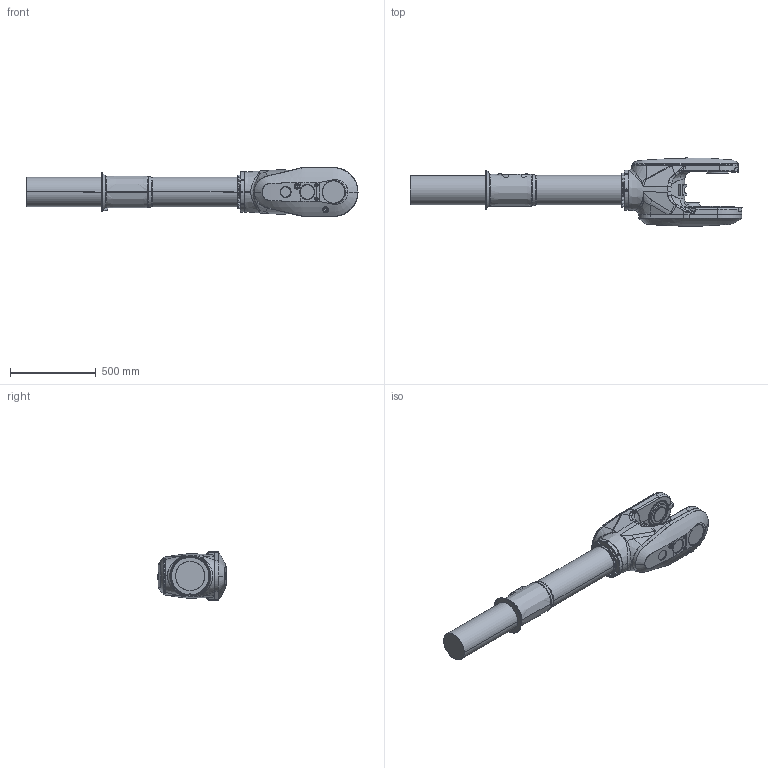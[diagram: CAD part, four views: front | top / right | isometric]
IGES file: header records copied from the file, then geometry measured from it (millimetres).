
Start section: SolidWorks IGES file using analytic representation for surfaces
Global section: file name: C:\Data\SAP_DOC\LW\IRB 6720\IRB6720_160kg-320_OC_01_SW_J\IRB6720_160kg-320_OC_01_IGES_J\IRB6720_160kg-320_OC_00_LINK04_CAD.igs; native system: SolidWorks 2024; preprocessor: SolidWorks 2024; author: SEJOVAS3; date: 260610.124050; units: millimetre
Bounding box: 1931.5 x 396.47 x 284 mm (x, y, z)
Surface area: 1626775.7 mm2 (no closed solid volume)
Topology: 0 solids, 0 shells, 727 faces, 12233 edges, 12209 vertices
Faces by surface type: bspline 432, revolution 295
